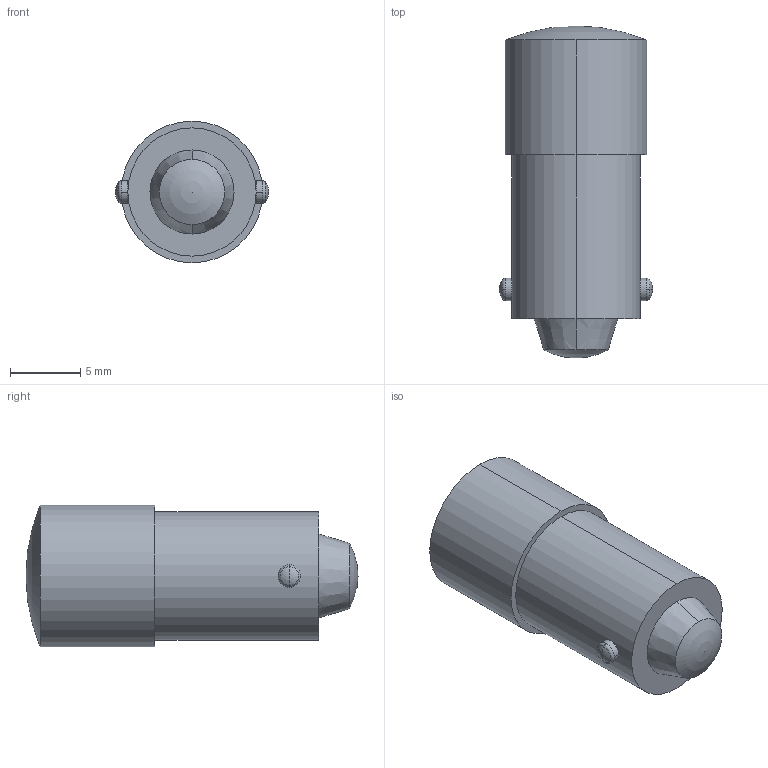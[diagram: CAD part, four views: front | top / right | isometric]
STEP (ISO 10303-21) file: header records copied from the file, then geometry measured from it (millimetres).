
FILE_DESCRIPTION (( 'STEP AP203' ), '1' );
FILE_NAME ('B3-L12.STEP', '2012-12-11T07:06:00', ( 'edv' ), ( '' ), 'SwSTEP 2.0', 'SolidWorks 2013', '' );
FILE_SCHEMA (( 'CONFIG_CONTROL_DESIGN' ));
Length unit declared in the file: millimetre
Products named in the file (1): B3-L12
Bounding box: 10.94 x 23.7 x 10.1 mm (x, y, z)
Volume: 1524.5 mm3; surface area: 802.7 mm2
Topology: 3 solids, 3 shells, 24 faces, 50 edges, 32 vertices
Faces by surface type: cylinder 8, sphere 6, plane 4, torus 4, cone 2
Entity records: 683 total; most frequent: DIRECTION 128, CARTESIAN_POINT 97, ORIENTED_EDGE 88, AXIS2_PLACEMENT_3D 59, EDGE_CURVE 44, CIRCLE 34, VERTEX_POINT 28, EDGE_LOOP 26
